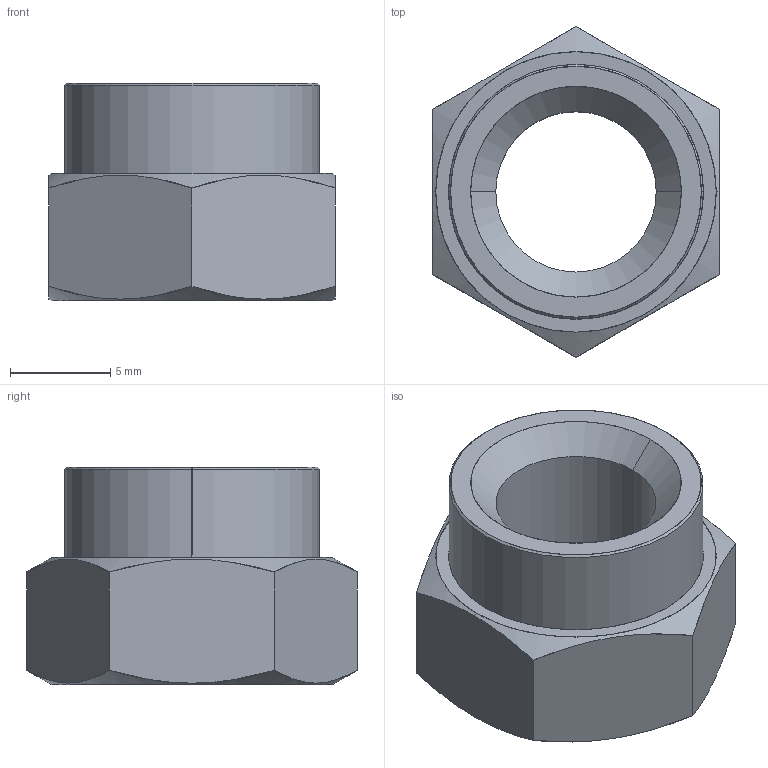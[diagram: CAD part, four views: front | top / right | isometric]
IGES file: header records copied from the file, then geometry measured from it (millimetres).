
Start section: SolidWorks IGES file using analytic representation for surfaces
Global section: file name: C:\Users\liam_\OneDrive\Desktop\Work\Mat Davis Pending 20181125\automotion\P SERIES\P0827.ZP_v2\P0827.ZP_v2_20181231_IGES\P0827.080-08G-ZP.igs; native system: SolidWorks 2017; preprocessor: SolidWorks 2017; author: liam_; date: 181231.110952; units: millimetre
Bounding box: 14.27 x 16.48 x 10.85 mm (x, y, z)
Surface area: 960.3 mm2 (no closed solid volume)
Topology: 0 solids, 0 shells, 23 faces, 424 edges, 424 vertices
Faces by surface type: revolution 14, bspline 9
